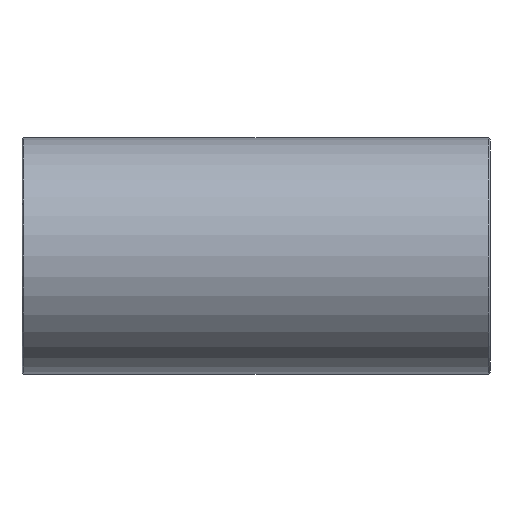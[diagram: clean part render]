
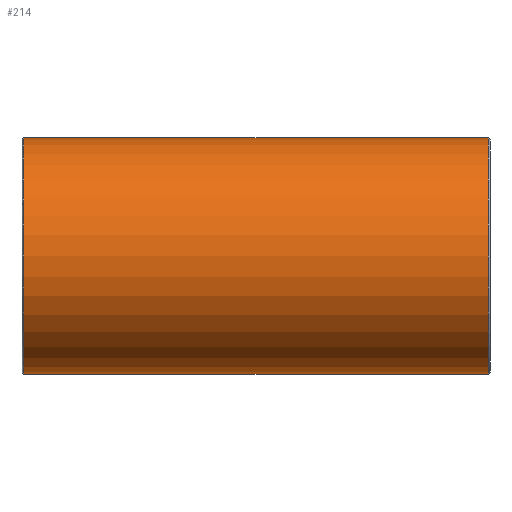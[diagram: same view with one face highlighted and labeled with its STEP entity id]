
A CAD part, front view. The second image highlights one B-rep face of the part: STEP entity #214.
In plain terms, the highlighted cylindrical face has radius 25 mm (diameter 50 mm), a full revolution.
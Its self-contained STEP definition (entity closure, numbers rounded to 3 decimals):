
#27=B_SPLINE_CURVE_WITH_KNOTS('',3,(#355,#356,#357,#358,#359,#360,#361,
#362,#363,#364,#365,#366,#367,#368,#369,#370,#371,#372,#373,#374,#375,#376,
#377,#378,#379,#380,#381,#382,#383,#384,#385,#386,#387,#388,#389,#390,#391,
#392,#393,#394,#395,#396,#397,#398,#399,#400,#401,#402,#403,#404),
 .UNSPECIFIED.,.T.,.F.,(4,2,2,2,2,2,2,2,2,2,2,2,2,2,2,2,2,2,2,2,2,2,2,2,
4),(0.,0.292,0.585,1.17,1.751,
2.041,2.332,2.622,2.913,3.494,
4.079,4.371,4.663,4.956,5.248,
5.833,6.414,6.704,6.995,7.285,
7.576,8.157,8.742,9.034,9.327),
 .UNSPECIFIED.);
#29=FACE_BOUND('',#70,.T.);
#30=FACE_BOUND('',#71,.T.);
#50=FACE_OUTER_BOUND('',#69,.T.);
#69=EDGE_LOOP('',(#167));
#70=EDGE_LOOP('',(#168));
#71=EDGE_LOOP('',(#169));
#109=CIRCLE('',#236,25.);
#110=CIRCLE('',#237,25.);
#127=VERTEX_POINT('',#350);
#128=VERTEX_POINT('',#352);
#129=VERTEX_POINT('',#354);
#147=EDGE_CURVE('',#127,#127,#109,.T.);
#148=EDGE_CURVE('',#128,#128,#110,.T.);
#149=EDGE_CURVE('',#129,#129,#27,.T.);
#167=ORIENTED_EDGE('',*,*,#147,.F.);
#168=ORIENTED_EDGE('',*,*,#148,.F.);
#169=ORIENTED_EDGE('',*,*,#149,.F.);
#207=CYLINDRICAL_SURFACE('',#235,25.);
#214=ADVANCED_FACE('',(#50,#29,#30),#207,.T.);
#235=AXIS2_PLACEMENT_3D('',#349,#274,#275);
#236=AXIS2_PLACEMENT_3D('',#351,#276,#277);
#237=AXIS2_PLACEMENT_3D('',#353,#278,#279);
#274=DIRECTION('center_axis',(1.,0.,0.));
#275=DIRECTION('ref_axis',(0.,1.,0.));
#276=DIRECTION('center_axis',(-1.,0.,0.));
#277=DIRECTION('ref_axis',(0.,-1.,0.));
#278=DIRECTION('center_axis',(1.,0.,0.));
#279=DIRECTION('ref_axis',(0.,-1.,0.));
#349=CARTESIAN_POINT('Origin',(0.,0.,
0.));
#350=CARTESIAN_POINT('',(-49.1,25.,0.));
#351=CARTESIAN_POINT('Origin',(-49.1,0.,0.));
#352=CARTESIAN_POINT('',(49.1,25.,0.));
#353=CARTESIAN_POINT('Origin',(49.1,0.,0.));
#354=CARTESIAN_POINT('',(0.,20.,15.));
#355=CARTESIAN_POINT('Ctrl Pts',(0.,20.,15.));
#356=CARTESIAN_POINT('Ctrl Pts',(0.975,20.,15.));
#357=CARTESIAN_POINT('Ctrl Pts',(1.97,20.073,14.904));
#358=CARTESIAN_POINT('Ctrl Pts',(3.929,20.359,14.511));
#359=CARTESIAN_POINT('Ctrl Pts',(4.894,20.571,14.214));
#360=CARTESIAN_POINT('Ctrl Pts',(7.647,21.339,13.057));
#361=CARTESIAN_POINT('Ctrl Pts',(9.298,22.025,11.915));
#362=CARTESIAN_POINT('Ctrl Pts',(11.907,23.248,9.307));
#363=CARTESIAN_POINT('Ctrl Pts',(13.055,23.875,7.653));
#364=CARTESIAN_POINT('Ctrl Pts',(14.216,24.535,4.89));
#365=CARTESIAN_POINT('Ctrl Pts',(14.512,24.71,3.923));
#366=CARTESIAN_POINT('Ctrl Pts',(14.905,24.942,1.962));
#367=CARTESIAN_POINT('Ctrl Pts',(15.,25.,0.968));
#368=CARTESIAN_POINT('Ctrl Pts',(15.,25.,-0.968));
#369=CARTESIAN_POINT('Ctrl Pts',(14.905,24.942,-1.962));
#370=CARTESIAN_POINT('Ctrl Pts',(14.512,24.71,-3.923));
#371=CARTESIAN_POINT('Ctrl Pts',(14.216,24.535,-4.89));
#372=CARTESIAN_POINT('Ctrl Pts',(13.055,23.875,-7.653));
#373=CARTESIAN_POINT('Ctrl Pts',(11.907,23.248,-9.307));
#374=CARTESIAN_POINT('Ctrl Pts',(9.298,22.025,-11.915));
#375=CARTESIAN_POINT('Ctrl Pts',(7.647,21.339,-13.057));
#376=CARTESIAN_POINT('Ctrl Pts',(4.894,20.571,-14.214));
#377=CARTESIAN_POINT('Ctrl Pts',(3.929,20.359,-14.511));
#378=CARTESIAN_POINT('Ctrl Pts',(1.97,20.073,-14.904));
#379=CARTESIAN_POINT('Ctrl Pts',(0.975,20.,-15.));
#380=CARTESIAN_POINT('Ctrl Pts',(-0.975,20.,-15.));
#381=CARTESIAN_POINT('Ctrl Pts',(-1.97,20.073,-14.904));
#382=CARTESIAN_POINT('Ctrl Pts',(-3.929,20.359,-14.511));
#383=CARTESIAN_POINT('Ctrl Pts',(-4.894,20.571,-14.214));
#384=CARTESIAN_POINT('Ctrl Pts',(-7.647,21.339,-13.057));
#385=CARTESIAN_POINT('Ctrl Pts',(-9.298,22.025,-11.915));
#386=CARTESIAN_POINT('Ctrl Pts',(-11.907,23.248,-9.307));
#387=CARTESIAN_POINT('Ctrl Pts',(-13.055,23.875,-7.653));
#388=CARTESIAN_POINT('Ctrl Pts',(-14.216,24.535,-4.89));
#389=CARTESIAN_POINT('Ctrl Pts',(-14.512,24.71,-3.923));
#390=CARTESIAN_POINT('Ctrl Pts',(-14.905,24.942,-1.962));
#391=CARTESIAN_POINT('Ctrl Pts',(-15.,25.,-0.968));
#392=CARTESIAN_POINT('Ctrl Pts',(-15.,25.,0.968));
#393=CARTESIAN_POINT('Ctrl Pts',(-14.905,24.942,1.962));
#394=CARTESIAN_POINT('Ctrl Pts',(-14.512,24.71,3.923));
#395=CARTESIAN_POINT('Ctrl Pts',(-14.216,24.535,4.89));
#396=CARTESIAN_POINT('Ctrl Pts',(-13.055,23.875,7.653));
#397=CARTESIAN_POINT('Ctrl Pts',(-11.907,23.248,9.307));
#398=CARTESIAN_POINT('Ctrl Pts',(-9.298,22.025,11.915));
#399=CARTESIAN_POINT('Ctrl Pts',(-7.647,21.339,13.057));
#400=CARTESIAN_POINT('Ctrl Pts',(-4.894,20.571,14.214));
#401=CARTESIAN_POINT('Ctrl Pts',(-3.929,20.359,14.511));
#402=CARTESIAN_POINT('Ctrl Pts',(-1.97,20.073,14.904));
#403=CARTESIAN_POINT('Ctrl Pts',(-0.975,20.,15.));
#404=CARTESIAN_POINT('Ctrl Pts',(0.,20.,15.));
